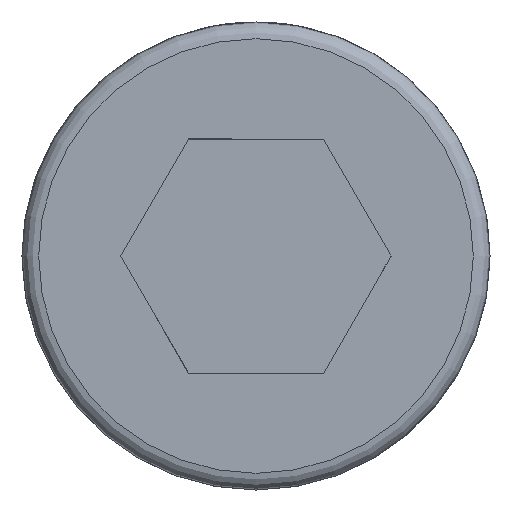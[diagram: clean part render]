
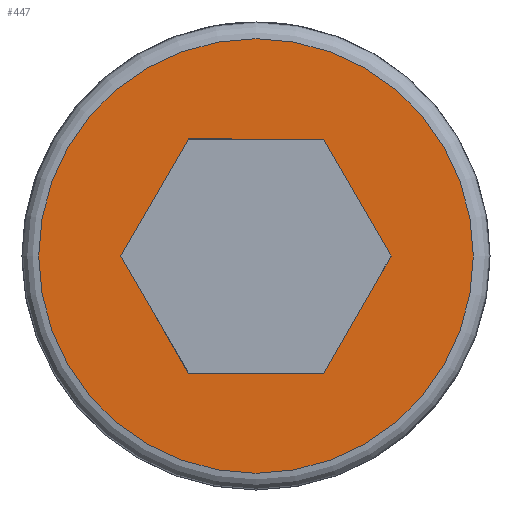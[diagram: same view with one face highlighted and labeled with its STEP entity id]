
A CAD part, left-side view. The second image highlights one B-rep face of the part: STEP entity #447.
In plain terms, the highlighted planar face has unit normal (-1, 0, 0).
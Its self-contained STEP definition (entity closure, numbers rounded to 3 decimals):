
#377=CARTESIAN_POINT('',(140.0,0.,6.5));
#378=VERTEX_POINT('',#377);
#379=CARTESIAN_POINT('',(140.0,0.0,0.0));
#380=DIRECTION('',(1.0,0.0,0.0));
#381=DIRECTION('',(0.0,0.0,-1.0));
#382=AXIS2_PLACEMENT_3D('',#379,#380,#381);
#383=CIRCLE('',#382,6.5);
#384=EDGE_CURVE('',#378,#378,#383,.T.);
#389=CARTESIAN_POINT('',(140.0,0.0,3.5));
#390=DIRECTION('',(-1.0,0.0,0.0));
#391=DIRECTION('',(0.0,0.0,1.0));
#392=AXIS2_PLACEMENT_3D('',#389,#390,#391);
#393=PLANE('',#392);
#394=ORIENTED_EDGE('',*,*,#384,.F.);
#395=EDGE_LOOP('',(#394));
#396=FACE_OUTER_BOUND('',#395,.T.);
#397=CARTESIAN_POINT('',(140.0,-2.021,-3.5));
#398=VERTEX_POINT('',#397);
#399=CARTESIAN_POINT('',(140.0,2.021,-3.5));
#400=VERTEX_POINT('',#399);
#401=CARTESIAN_POINT('',(140.0,-2.021,-3.5));
#402=DIRECTION('',(0.0,1.0,0.0));
#403=VECTOR('',#402,4.041);
#404=LINE('',#401,#403);
#405=EDGE_CURVE('',#398,#400,#404,.T.);
#406=ORIENTED_EDGE('',*,*,#405,.T.);
#407=CARTESIAN_POINT('',(140.0,4.041,0.));
#408=VERTEX_POINT('',#407);
#409=CARTESIAN_POINT('',(140.0,2.021,-3.5));
#410=DIRECTION('',(0.0,0.5,0.866));
#411=VECTOR('',#410,4.041);
#412=LINE('',#409,#411);
#413=EDGE_CURVE('',#400,#408,#412,.T.);
#414=ORIENTED_EDGE('',*,*,#413,.T.);
#415=CARTESIAN_POINT('',(140.0,2.021,3.5));
#416=VERTEX_POINT('',#415);
#417=CARTESIAN_POINT('',(140.0,4.041,0.));
#418=DIRECTION('',(0.0,-0.5,0.866));
#419=VECTOR('',#418,4.041);
#420=LINE('',#417,#419);
#421=EDGE_CURVE('',#408,#416,#420,.T.);
#422=ORIENTED_EDGE('',*,*,#421,.T.);
#423=CARTESIAN_POINT('',(140.0,-2.021,3.5));
#424=VERTEX_POINT('',#423);
#425=CARTESIAN_POINT('',(140.0,2.021,3.5));
#426=DIRECTION('',(0.0,-1.0,0.0));
#427=VECTOR('',#426,4.041);
#428=LINE('',#425,#427);
#429=EDGE_CURVE('',#416,#424,#428,.T.);
#430=ORIENTED_EDGE('',*,*,#429,.T.);
#431=CARTESIAN_POINT('',(140.0,-4.041,0.0));
#432=VERTEX_POINT('',#431);
#433=CARTESIAN_POINT('',(140.0,-2.021,3.5));
#434=DIRECTION('',(0.0,-0.5,-0.866));
#435=VECTOR('',#434,4.041);
#436=LINE('',#433,#435);
#437=EDGE_CURVE('',#424,#432,#436,.T.);
#438=ORIENTED_EDGE('',*,*,#437,.T.);
#439=CARTESIAN_POINT('',(140.0,-4.041,0.0));
#440=DIRECTION('',(0.0,0.5,-0.866));
#441=VECTOR('',#440,4.041);
#442=LINE('',#439,#441);
#443=EDGE_CURVE('',#432,#398,#442,.T.);
#444=ORIENTED_EDGE('',*,*,#443,.T.);
#445=EDGE_LOOP('',(#406,#414,#422,#430,#438,#444));
#446=FACE_BOUND('',#445,.T.);
#447=ADVANCED_FACE('',(#396,#446),#393,.T.);
